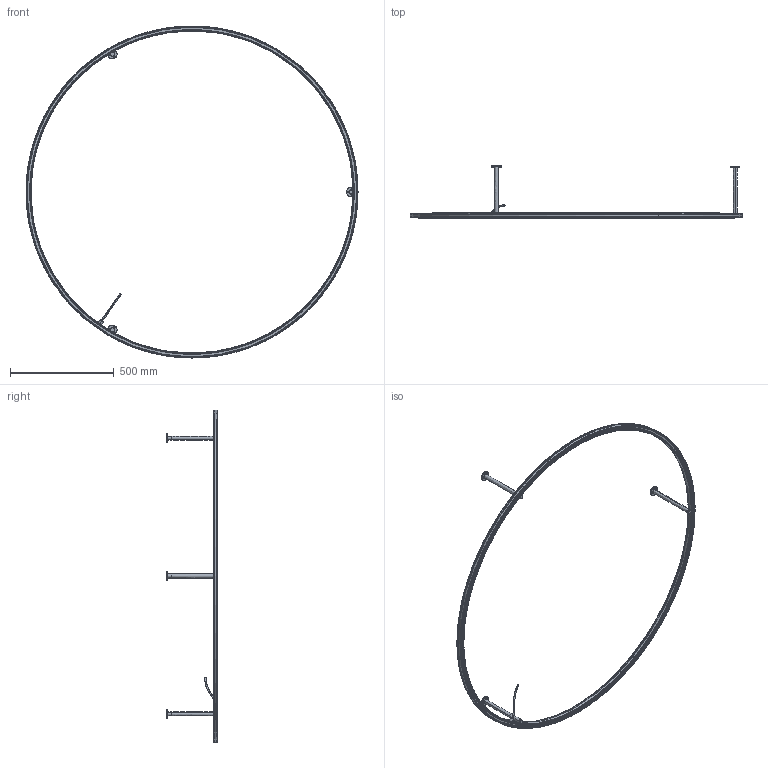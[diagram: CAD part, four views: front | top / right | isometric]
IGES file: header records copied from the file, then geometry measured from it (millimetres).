
Start section: SolidWorks IGES file using analytic representation for surfaces
Global section: file name: \\STORAGE\Tecnico Condiviso\1 FASCICOLI TECNICI\LIGHTECTURE\LIG008-U LIGHT\CE\PLULA160LED\PLUL2160LEDXXXX-PER 3D.IGS; native system: SolidWorks 2024; preprocessor: SolidWorks 2024; author: tecnico3; date: 240528.192258; units: millimetre
Bounding box: 1600 x 250 x 1600 mm (x, y, z)
Surface area: 828131.5 mm2 (no closed solid volume)
Topology: 0 solids, 0 shells, 358 faces, 5900 edges, 5894 vertices
Faces by surface type: revolution 201, bspline 157
